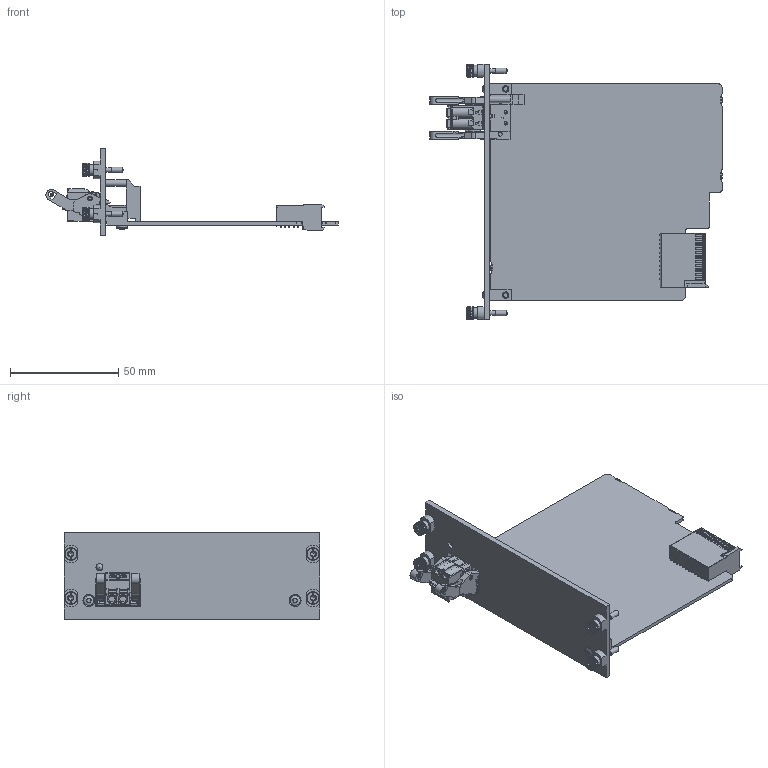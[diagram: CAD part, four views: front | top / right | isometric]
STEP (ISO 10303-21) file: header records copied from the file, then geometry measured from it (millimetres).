
FILE_DESCRIPTION(/* description */ (''),/* implementation_level */ '2;1');
FILE_NAME(/* name */ 'PDM6.x_3D CAD_20250317.stp',/* time_stamp */ '2025-03-17T09:46:41+01:00',/* author */ ('DSP'),/* organization */ (''),/* preprocessor_version */ 'ST-DEVELOPER v19.2',/* originating_system */ 'Autodesk Inventor 2023',/* authorisation */ '');
FILE_SCHEMA (('AUTOMOTIVE_DESIGN { 1 0 10303 214 3 1 1 }'));
Products named in the file (1): PDM6.x_3D CAD_SMPL_20250317
Bounding box: 134.89 x 117.85 x 40.3 mm (x, y, z)
Volume: 38481.1 mm3; surface area: 44694.6 mm2
Topology: 12 solids, 12 shells, 6702 faces, 19258 edges, 12667 vertices
Faces by surface type: plane 4611, cylinder 1852, cone 108, torus 73, bspline 37, sphere 21
Full cylindrical faces by diameter (mm): 0.434 x1, 0.6 x6, 0.7 x66, 1.15 x2, 1.5 x2, 1.59 x2, 1.6 x2, 1.8 x4, 2 x4, 2.15 x2, 2.2 x2, 2.5 x6, 2.9 x2, 2.997 x1, 3.2 x1, 4 x2, 4.7 x2, 5 x6
Entity records: 230793 total; most frequent: CARTESIAN_POINT 46124, ORIENTED_EDGE 38480, DIRECTION 35804, EDGE_CURVE 19240, LINE 14160, VECTOR 14160, VERTEX_POINT 12667, AXIS2_PLACEMENT_3D 10822
